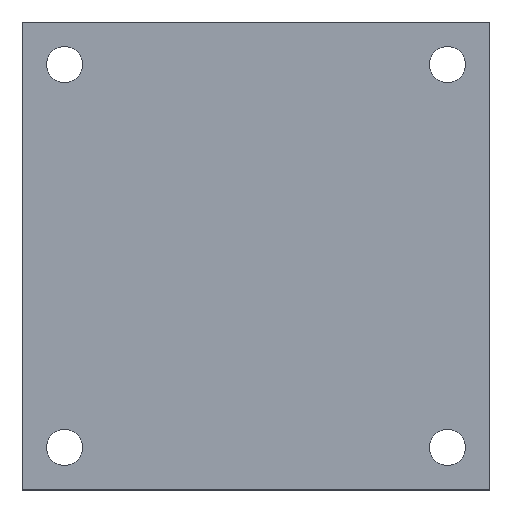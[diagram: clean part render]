
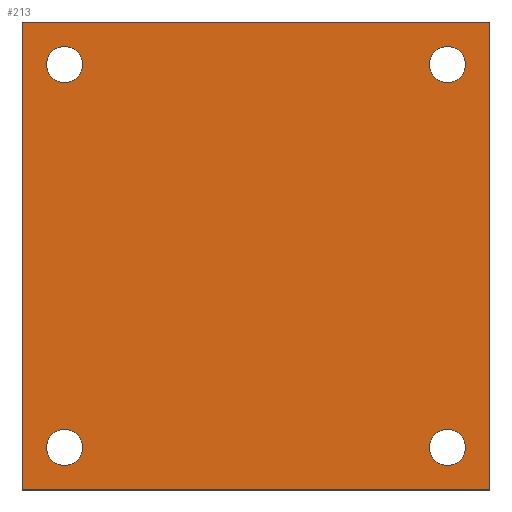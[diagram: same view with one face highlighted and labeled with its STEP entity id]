
A CAD part, top view. The second image highlights one B-rep face of the part: STEP entity #213.
In plain terms, the highlighted planar face has unit normal (0, 0, 1).
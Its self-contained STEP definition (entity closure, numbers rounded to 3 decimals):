
#24 = VERTEX_POINT('',#25);
#25 = CARTESIAN_POINT('',(0.,0.,
    5.2));
#32 = PLANE('',#33);
#33 = AXIS2_PLACEMENT_3D('',#34,#35,#36);
#34 = CARTESIAN_POINT('',(0.,0.,
    2.));
#35 = DIRECTION('',(1.,0.,-0.));
#36 = DIRECTION('',(0.,0.,1.));
#44 = PLANE('',#45);
#45 = AXIS2_PLACEMENT_3D('',#46,#47,#48);
#46 = CARTESIAN_POINT('',(0.,0.,
    2.));
#47 = DIRECTION('',(-0.,1.,0.));
#48 = DIRECTION('',(0.,0.,1.));
#85 = VERTEX_POINT('',#86);
#86 = CARTESIAN_POINT('',(0.,44.,5.2));
#100 = PLANE('',#101);
#101 = AXIS2_PLACEMENT_3D('',#102,#103,#104);
#102 = CARTESIAN_POINT('',(0.,44.,2.));
#103 = DIRECTION('',(-0.,1.,0.));
#104 = DIRECTION('',(0.,0.,1.));
#112 = EDGE_CURVE('',#24,#85,#113,.T.);
#113 = SURFACE_CURVE('',#114,(#118,#125),.PCURVE_S1.);
#114 = LINE('',#115,#116);
#115 = CARTESIAN_POINT('',(0.,0.,
    5.2));
#116 = VECTOR('',#117,1.);
#117 = DIRECTION('',(-0.,1.,0.));
#118 = PCURVE('',#32,#119);
#119 = DEFINITIONAL_REPRESENTATION('',(#120),#124);
#120 = LINE('',#121,#122);
#121 = CARTESIAN_POINT('',(3.2,0.));
#122 = VECTOR('',#123,1.);
#123 = DIRECTION('',(0.,-1.));
#124 = ( GEOMETRIC_REPRESENTATION_CONTEXT(2) 
PARAMETRIC_REPRESENTATION_CONTEXT() REPRESENTATION_CONTEXT('2D SPACE',''
  ) );
#125 = PCURVE('',#126,#131);
#126 = PLANE('',#127);
#127 = AXIS2_PLACEMENT_3D('',#128,#129,#130);
#128 = CARTESIAN_POINT('',(0.,0.,
    5.2));
#129 = DIRECTION('',(0.,0.,1.));
#130 = DIRECTION('',(1.,0.,-0.));
#131 = DEFINITIONAL_REPRESENTATION('',(#132),#136);
#132 = LINE('',#133,#134);
#133 = CARTESIAN_POINT('',(0.,0.));
#134 = VECTOR('',#135,1.);
#135 = DIRECTION('',(0.,1.));
#136 = ( GEOMETRIC_REPRESENTATION_CONTEXT(2) 
PARAMETRIC_REPRESENTATION_CONTEXT() REPRESENTATION_CONTEXT('2D SPACE',''
  ) );
#165 = EDGE_CURVE('',#24,#166,#168,.T.);
#166 = VERTEX_POINT('',#167);
#167 = CARTESIAN_POINT('',(44.,0.,5.2));
#168 = SURFACE_CURVE('',#169,(#173,#180),.PCURVE_S1.);
#169 = LINE('',#170,#171);
#170 = CARTESIAN_POINT('',(0.,0.,
    5.2));
#171 = VECTOR('',#172,1.);
#172 = DIRECTION('',(1.,0.,-0.));
#173 = PCURVE('',#44,#174);
#174 = DEFINITIONAL_REPRESENTATION('',(#175),#179);
#175 = LINE('',#176,#177);
#176 = CARTESIAN_POINT('',(3.2,0.));
#177 = VECTOR('',#178,1.);
#178 = DIRECTION('',(0.,1.));
#179 = ( GEOMETRIC_REPRESENTATION_CONTEXT(2) 
PARAMETRIC_REPRESENTATION_CONTEXT() REPRESENTATION_CONTEXT('2D SPACE',''
  ) );
#180 = PCURVE('',#126,#181);
#181 = DEFINITIONAL_REPRESENTATION('',(#182),#186);
#182 = LINE('',#183,#184);
#183 = CARTESIAN_POINT('',(0.,0.));
#184 = VECTOR('',#185,1.);
#185 = DIRECTION('',(1.,0.));
#186 = ( GEOMETRIC_REPRESENTATION_CONTEXT(2) 
PARAMETRIC_REPRESENTATION_CONTEXT() REPRESENTATION_CONTEXT('2D SPACE',''
  ) );
#202 = PLANE('',#203);
#203 = AXIS2_PLACEMENT_3D('',#204,#205,#206);
#204 = CARTESIAN_POINT('',(44.,0.,2.));
#205 = DIRECTION('',(1.,0.,-0.));
#206 = DIRECTION('',(0.,0.,1.));
#213 = ADVANCED_FACE('',(#214,#262,#293,#324,#355),#126,.T.);
#214 = FACE_BOUND('',#215,.T.);
#215 = EDGE_LOOP('',(#216,#217,#218,#241));
#216 = ORIENTED_EDGE('',*,*,#112,.F.);
#217 = ORIENTED_EDGE('',*,*,#165,.T.);
#218 = ORIENTED_EDGE('',*,*,#219,.T.);
#219 = EDGE_CURVE('',#166,#220,#222,.T.);
#220 = VERTEX_POINT('',#221);
#221 = CARTESIAN_POINT('',(44.,44.,5.2));
#222 = SURFACE_CURVE('',#223,(#227,#234),.PCURVE_S1.);
#223 = LINE('',#224,#225);
#224 = CARTESIAN_POINT('',(44.,0.,5.2));
#225 = VECTOR('',#226,1.);
#226 = DIRECTION('',(-0.,1.,0.));
#227 = PCURVE('',#126,#228);
#228 = DEFINITIONAL_REPRESENTATION('',(#229),#233);
#229 = LINE('',#230,#231);
#230 = CARTESIAN_POINT('',(44.,0.));
#231 = VECTOR('',#232,1.);
#232 = DIRECTION('',(0.,1.));
#233 = ( GEOMETRIC_REPRESENTATION_CONTEXT(2) 
PARAMETRIC_REPRESENTATION_CONTEXT() REPRESENTATION_CONTEXT('2D SPACE',''
  ) );
#234 = PCURVE('',#202,#235);
#235 = DEFINITIONAL_REPRESENTATION('',(#236),#240);
#236 = LINE('',#237,#238);
#237 = CARTESIAN_POINT('',(3.2,0.));
#238 = VECTOR('',#239,1.);
#239 = DIRECTION('',(0.,-1.));
#240 = ( GEOMETRIC_REPRESENTATION_CONTEXT(2) 
PARAMETRIC_REPRESENTATION_CONTEXT() REPRESENTATION_CONTEXT('2D SPACE',''
  ) );
#241 = ORIENTED_EDGE('',*,*,#242,.F.);
#242 = EDGE_CURVE('',#85,#220,#243,.T.);
#243 = SURFACE_CURVE('',#244,(#248,#255),.PCURVE_S1.);
#244 = LINE('',#245,#246);
#245 = CARTESIAN_POINT('',(0.,44.,5.2));
#246 = VECTOR('',#247,1.);
#247 = DIRECTION('',(1.,0.,-0.));
#248 = PCURVE('',#126,#249);
#249 = DEFINITIONAL_REPRESENTATION('',(#250),#254);
#250 = LINE('',#251,#252);
#251 = CARTESIAN_POINT('',(0.,44.));
#252 = VECTOR('',#253,1.);
#253 = DIRECTION('',(1.,0.));
#254 = ( GEOMETRIC_REPRESENTATION_CONTEXT(2) 
PARAMETRIC_REPRESENTATION_CONTEXT() REPRESENTATION_CONTEXT('2D SPACE',''
  ) );
#255 = PCURVE('',#100,#256);
#256 = DEFINITIONAL_REPRESENTATION('',(#257),#261);
#257 = LINE('',#258,#259);
#258 = CARTESIAN_POINT('',(3.2,0.));
#259 = VECTOR('',#260,1.);
#260 = DIRECTION('',(0.,1.));
#261 = ( GEOMETRIC_REPRESENTATION_CONTEXT(2) 
PARAMETRIC_REPRESENTATION_CONTEXT() REPRESENTATION_CONTEXT('2D SPACE',''
  ) );
#262 = FACE_BOUND('',#263,.T.);
#263 = EDGE_LOOP('',(#264));
#264 = ORIENTED_EDGE('',*,*,#265,.F.);
#265 = EDGE_CURVE('',#266,#266,#268,.T.);
#266 = VERTEX_POINT('',#267);
#267 = CARTESIAN_POINT('',(5.7,4.,5.2));
#268 = SURFACE_CURVE('',#269,(#274,#281),.PCURVE_S1.);
#269 = CIRCLE('',#270,1.7);
#270 = AXIS2_PLACEMENT_3D('',#271,#272,#273);
#271 = CARTESIAN_POINT('',(4.,4.,5.2));
#272 = DIRECTION('',(0.,0.,1.));
#273 = DIRECTION('',(1.,0.,-0.));
#274 = PCURVE('',#126,#275);
#275 = DEFINITIONAL_REPRESENTATION('',(#276),#280);
#276 = CIRCLE('',#277,1.7);
#277 = AXIS2_PLACEMENT_2D('',#278,#279);
#278 = CARTESIAN_POINT('',(4.,4.));
#279 = DIRECTION('',(1.,0.));
#280 = ( GEOMETRIC_REPRESENTATION_CONTEXT(2) 
PARAMETRIC_REPRESENTATION_CONTEXT() REPRESENTATION_CONTEXT('2D SPACE',''
  ) );
#281 = PCURVE('',#282,#287);
#282 = CYLINDRICAL_SURFACE('',#283,1.7);
#283 = AXIS2_PLACEMENT_3D('',#284,#285,#286);
#284 = CARTESIAN_POINT('',(4.,4.,-1.));
#285 = DIRECTION('',(0.,0.,1.));
#286 = DIRECTION('',(1.,0.,-0.));
#287 = DEFINITIONAL_REPRESENTATION('',(#288),#292);
#288 = LINE('',#289,#290);
#289 = CARTESIAN_POINT('',(0.,6.2));
#290 = VECTOR('',#291,1.);
#291 = DIRECTION('',(1.,0.));
#292 = ( GEOMETRIC_REPRESENTATION_CONTEXT(2) 
PARAMETRIC_REPRESENTATION_CONTEXT() REPRESENTATION_CONTEXT('2D SPACE',''
  ) );
#293 = FACE_BOUND('',#294,.T.);
#294 = EDGE_LOOP('',(#295));
#295 = ORIENTED_EDGE('',*,*,#296,.F.);
#296 = EDGE_CURVE('',#297,#297,#299,.T.);
#297 = VERTEX_POINT('',#298);
#298 = CARTESIAN_POINT('',(41.7,4.,5.2));
#299 = SURFACE_CURVE('',#300,(#305,#312),.PCURVE_S1.);
#300 = CIRCLE('',#301,1.7);
#301 = AXIS2_PLACEMENT_3D('',#302,#303,#304);
#302 = CARTESIAN_POINT('',(40.,4.,5.2));
#303 = DIRECTION('',(0.,0.,1.));
#304 = DIRECTION('',(1.,0.,-0.));
#305 = PCURVE('',#126,#306);
#306 = DEFINITIONAL_REPRESENTATION('',(#307),#311);
#307 = CIRCLE('',#308,1.7);
#308 = AXIS2_PLACEMENT_2D('',#309,#310);
#309 = CARTESIAN_POINT('',(40.,4.));
#310 = DIRECTION('',(1.,0.));
#311 = ( GEOMETRIC_REPRESENTATION_CONTEXT(2) 
PARAMETRIC_REPRESENTATION_CONTEXT() REPRESENTATION_CONTEXT('2D SPACE',''
  ) );
#312 = PCURVE('',#313,#318);
#313 = CYLINDRICAL_SURFACE('',#314,1.7);
#314 = AXIS2_PLACEMENT_3D('',#315,#316,#317);
#315 = CARTESIAN_POINT('',(40.,4.,-1.));
#316 = DIRECTION('',(0.,0.,1.));
#317 = DIRECTION('',(1.,0.,-0.));
#318 = DEFINITIONAL_REPRESENTATION('',(#319),#323);
#319 = LINE('',#320,#321);
#320 = CARTESIAN_POINT('',(0.,6.2));
#321 = VECTOR('',#322,1.);
#322 = DIRECTION('',(1.,0.));
#323 = ( GEOMETRIC_REPRESENTATION_CONTEXT(2) 
PARAMETRIC_REPRESENTATION_CONTEXT() REPRESENTATION_CONTEXT('2D SPACE',''
  ) );
#324 = FACE_BOUND('',#325,.T.);
#325 = EDGE_LOOP('',(#326));
#326 = ORIENTED_EDGE('',*,*,#327,.F.);
#327 = EDGE_CURVE('',#328,#328,#330,.T.);
#328 = VERTEX_POINT('',#329);
#329 = CARTESIAN_POINT('',(5.7,40.,5.2));
#330 = SURFACE_CURVE('',#331,(#336,#343),.PCURVE_S1.);
#331 = CIRCLE('',#332,1.7);
#332 = AXIS2_PLACEMENT_3D('',#333,#334,#335);
#333 = CARTESIAN_POINT('',(4.,40.,5.2));
#334 = DIRECTION('',(0.,0.,1.));
#335 = DIRECTION('',(1.,0.,-0.));
#336 = PCURVE('',#126,#337);
#337 = DEFINITIONAL_REPRESENTATION('',(#338),#342);
#338 = CIRCLE('',#339,1.7);
#339 = AXIS2_PLACEMENT_2D('',#340,#341);
#340 = CARTESIAN_POINT('',(4.,40.));
#341 = DIRECTION('',(1.,0.));
#342 = ( GEOMETRIC_REPRESENTATION_CONTEXT(2) 
PARAMETRIC_REPRESENTATION_CONTEXT() REPRESENTATION_CONTEXT('2D SPACE',''
  ) );
#343 = PCURVE('',#344,#349);
#344 = CYLINDRICAL_SURFACE('',#345,1.7);
#345 = AXIS2_PLACEMENT_3D('',#346,#347,#348);
#346 = CARTESIAN_POINT('',(4.,40.,-1.));
#347 = DIRECTION('',(0.,0.,1.));
#348 = DIRECTION('',(1.,0.,-0.));
#349 = DEFINITIONAL_REPRESENTATION('',(#350),#354);
#350 = LINE('',#351,#352);
#351 = CARTESIAN_POINT('',(0.,6.2));
#352 = VECTOR('',#353,1.);
#353 = DIRECTION('',(1.,0.));
#354 = ( GEOMETRIC_REPRESENTATION_CONTEXT(2) 
PARAMETRIC_REPRESENTATION_CONTEXT() REPRESENTATION_CONTEXT('2D SPACE',''
  ) );
#355 = FACE_BOUND('',#356,.T.);
#356 = EDGE_LOOP('',(#357));
#357 = ORIENTED_EDGE('',*,*,#358,.F.);
#358 = EDGE_CURVE('',#359,#359,#361,.T.);
#359 = VERTEX_POINT('',#360);
#360 = CARTESIAN_POINT('',(41.7,40.,5.2));
#361 = SURFACE_CURVE('',#362,(#367,#374),.PCURVE_S1.);
#362 = CIRCLE('',#363,1.7);
#363 = AXIS2_PLACEMENT_3D('',#364,#365,#366);
#364 = CARTESIAN_POINT('',(40.,40.,5.2));
#365 = DIRECTION('',(0.,0.,1.));
#366 = DIRECTION('',(1.,0.,-0.));
#367 = PCURVE('',#126,#368);
#368 = DEFINITIONAL_REPRESENTATION('',(#369),#373);
#369 = CIRCLE('',#370,1.7);
#370 = AXIS2_PLACEMENT_2D('',#371,#372);
#371 = CARTESIAN_POINT('',(40.,40.));
#372 = DIRECTION('',(1.,0.));
#373 = ( GEOMETRIC_REPRESENTATION_CONTEXT(2) 
PARAMETRIC_REPRESENTATION_CONTEXT() REPRESENTATION_CONTEXT('2D SPACE',''
  ) );
#374 = PCURVE('',#375,#380);
#375 = CYLINDRICAL_SURFACE('',#376,1.7);
#376 = AXIS2_PLACEMENT_3D('',#377,#378,#379);
#377 = CARTESIAN_POINT('',(40.,40.,-1.));
#378 = DIRECTION('',(0.,0.,1.));
#379 = DIRECTION('',(1.,0.,-0.));
#380 = DEFINITIONAL_REPRESENTATION('',(#381),#385);
#381 = LINE('',#382,#383);
#382 = CARTESIAN_POINT('',(0.,6.2));
#383 = VECTOR('',#384,1.);
#384 = DIRECTION('',(1.,0.));
#385 = ( GEOMETRIC_REPRESENTATION_CONTEXT(2) 
PARAMETRIC_REPRESENTATION_CONTEXT() REPRESENTATION_CONTEXT('2D SPACE',''
  ) );
